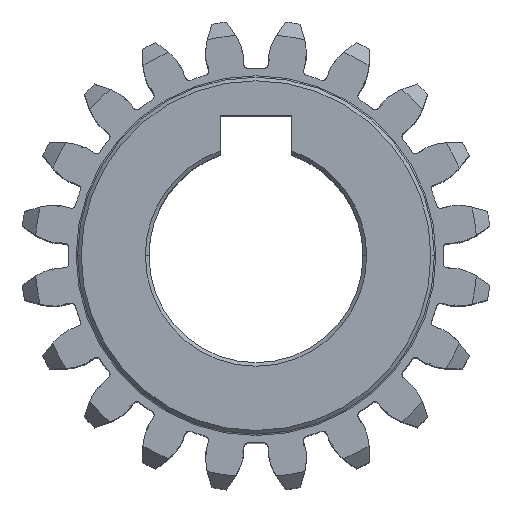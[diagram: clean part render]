
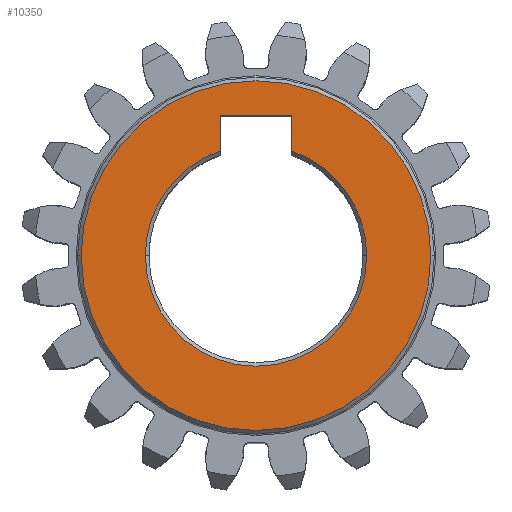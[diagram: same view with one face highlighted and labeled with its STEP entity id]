
A CAD part, top view. The second image highlights one B-rep face of the part: STEP entity #10350.
In plain terms, the highlighted planar face has unit normal (0, 0, 1).
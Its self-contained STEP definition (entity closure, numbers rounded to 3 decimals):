
#41 = ORIENTED_EDGE ( 'NONE', *, *, #6990, .T. ) ;
#326 = DIRECTION ( 'NONE',  ( 0., 0., 1. ) ) ;
#448 = VERTEX_POINT ( 'NONE', #9787 ) ;
#504 = CARTESIAN_POINT ( 'NONE',  ( -2.5, 5.2, 15. ) ) ;
#571 = DIRECTION ( 'NONE',  ( 1., 0., 0. ) ) ;
#626 = AXIS2_PLACEMENT_3D ( 'NONE', #7502, #9597, #1061 ) ;
#784 = FACE_OUTER_BOUND ( 'NONE', #1619, .T. ) ;
#1061 = DIRECTION ( 'NONE',  ( 1., 0., 0. ) ) ;
#1121 = CARTESIAN_POINT ( 'NONE',  ( -12.25, 0., 15. ) ) ;
#1133 = LINE ( 'NONE', #504, #4212 ) ;
#1145 = EDGE_CURVE ( 'NONE', #8628, #4553, #4998, .T. ) ;
#1495 = DIRECTION ( 'NONE',  ( 1., 0., 0. ) ) ;
#1595 = DIRECTION ( 'NONE',  ( 1., 0., 0. ) ) ;
#1619 = EDGE_LOOP ( 'NONE', ( #2449, #6705 ) ) ;
#1623 = DIRECTION ( 'NONE',  ( 1., 0., 0. ) ) ;
#1689 = EDGE_CURVE ( 'NONE', #10193, #7298, #1133, .T. ) ;
#1709 = EDGE_CURVE ( 'NONE', #7298, #5905, #2301, .T. ) ;
#1845 = VERTEX_POINT ( 'NONE', #9670 ) ;
#2301 = LINE ( 'NONE', #2365, #11130 ) ;
#2365 = CARTESIAN_POINT ( 'NONE',  ( 2.5, 9.8, 15. ) ) ;
#2413 = CIRCLE ( 'NONE', #626, 7.75 ) ;
#2449 = ORIENTED_EDGE ( 'NONE', *, *, #5491, .T. ) ;
#2473 = CARTESIAN_POINT ( 'NONE',  ( 0., 0., 15. ) ) ;
#2824 = DIRECTION ( 'NONE',  ( 1., 0., 0. ) ) ;
#3596 = CARTESIAN_POINT ( 'NONE',  ( 0., 0., 15. ) ) ;
#3641 = CARTESIAN_POINT ( 'NONE',  ( 2.5, 9.8, 15. ) ) ;
#3804 = ORIENTED_EDGE ( 'NONE', *, *, #1145, .T. ) ;
#4118 = AXIS2_PLACEMENT_3D ( 'NONE', #10714, #326, #1495 ) ;
#4212 = VECTOR ( 'NONE', #10840, 1000. ) ;
#4553 = VERTEX_POINT ( 'NONE', #9853 ) ;
#4648 = LINE ( 'NONE', #5704, #10529 ) ;
#4998 = CIRCLE ( 'NONE', #6179, 7.75 ) ;
#5145 = DIRECTION ( 'NONE',  ( 1., 0., 0. ) ) ;
#5259 = ORIENTED_EDGE ( 'NONE', *, *, #1709, .T. ) ;
#5491 = EDGE_CURVE ( 'NONE', #7007, #448, #9735, .T. ) ;
#5603 = CARTESIAN_POINT ( 'NONE',  ( 0., 0., 15. ) ) ;
#5609 = EDGE_CURVE ( 'NONE', #5905, #8628, #4648, .T. ) ;
#5704 = CARTESIAN_POINT ( 'NONE',  ( 2.5, 5.2, 15. ) ) ;
#5791 = AXIS2_PLACEMENT_3D ( 'NONE', #3596, #6499, #1623 ) ;
#5905 = VERTEX_POINT ( 'NONE', #3641 ) ;
#6045 = CARTESIAN_POINT ( 'NONE',  ( -2.5, 7.336, 15. ) ) ;
#6179 = AXIS2_PLACEMENT_3D ( 'NONE', #2473, #11931, #1595 ) ;
#6290 = AXIS2_PLACEMENT_3D ( 'NONE', #7059, #9783, #571 ) ;
#6494 = CARTESIAN_POINT ( 'NONE',  ( -2.5, 9.8, 15. ) ) ;
#6499 = DIRECTION ( 'NONE',  ( 0., 0., 1. ) ) ;
#6705 = ORIENTED_EDGE ( 'NONE', *, *, #10960, .T. ) ;
#6868 = ORIENTED_EDGE ( 'NONE', *, *, #1689, .T. ) ;
#6990 = EDGE_CURVE ( 'NONE', #1845, #10193, #2413, .T. ) ;
#7007 = VERTEX_POINT ( 'NONE', #1121 ) ;
#7009 = CARTESIAN_POINT ( 'NONE',  ( 2.5, 7.336, 15. ) ) ;
#7059 = CARTESIAN_POINT ( 'NONE',  ( 0., 0., 15. ) ) ;
#7076 = ORIENTED_EDGE ( 'NONE', *, *, #5609, .T. ) ;
#7298 = VERTEX_POINT ( 'NONE', #6494 ) ;
#7502 = CARTESIAN_POINT ( 'NONE',  ( 0., 0., 15. ) ) ;
#7520 = DIRECTION ( 'NONE',  ( 0., 0., 1. ) ) ;
#8093 = ORIENTED_EDGE ( 'NONE', *, *, #10905, .T. ) ;
#8628 = VERTEX_POINT ( 'NONE', #7009 ) ;
#9054 = CIRCLE ( 'NONE', #6290, 7.75 ) ;
#9437 = PLANE ( 'NONE',  #10821 ) ;
#9448 = CIRCLE ( 'NONE', #4118, 12.25 ) ;
#9597 = DIRECTION ( 'NONE',  ( 0., 0., -1. ) ) ;
#9670 = CARTESIAN_POINT ( 'NONE',  ( -7.75, 0., 15. ) ) ;
#9735 = CIRCLE ( 'NONE', #5791, 12.25 ) ;
#9783 = DIRECTION ( 'NONE',  ( 0., 0., -1. ) ) ;
#9787 = CARTESIAN_POINT ( 'NONE',  ( 12.25, 0., 15. ) ) ;
#9853 = CARTESIAN_POINT ( 'NONE',  ( 7.75, 0., 15. ) ) ;
#10193 = VERTEX_POINT ( 'NONE', #6045 ) ;
#10350 = ADVANCED_FACE ( 'NONE', ( #784, #11296 ), #9437, .T. ) ;
#10353 = EDGE_LOOP ( 'NONE', ( #7076, #3804, #8093, #41, #6868, #5259 ) ) ;
#10529 = VECTOR ( 'NONE', #11330, 1000. ) ;
#10714 = CARTESIAN_POINT ( 'NONE',  ( 0., 0., 15. ) ) ;
#10821 = AXIS2_PLACEMENT_3D ( 'NONE', #5603, #7520, #2824 ) ;
#10840 = DIRECTION ( 'NONE',  ( 0., 1., 0. ) ) ;
#10905 = EDGE_CURVE ( 'NONE', #4553, #1845, #9054, .T. ) ;
#10960 = EDGE_CURVE ( 'NONE', #448, #7007, #9448, .T. ) ;
#11130 = VECTOR ( 'NONE', #5145, 1000. ) ;
#11296 = FACE_BOUND ( 'NONE', #10353, .T. ) ;
#11330 = DIRECTION ( 'NONE',  ( 0., -1., 0. ) ) ;
#11931 = DIRECTION ( 'NONE',  ( 0., 0., -1. ) ) ;
